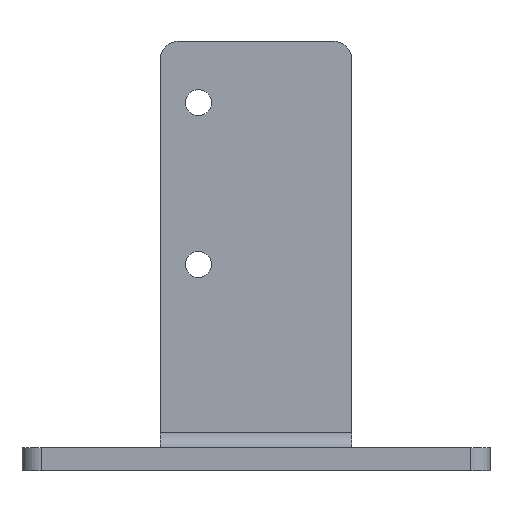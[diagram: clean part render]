
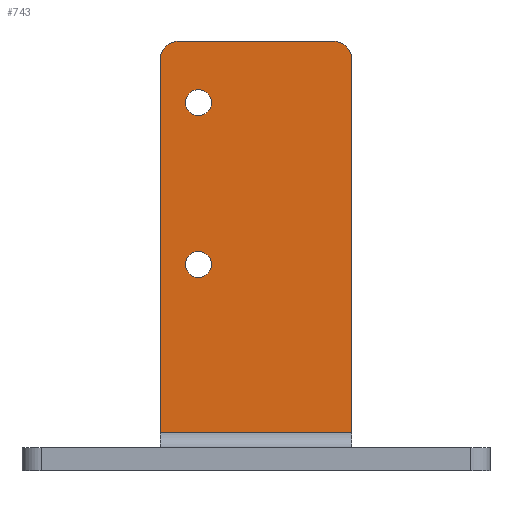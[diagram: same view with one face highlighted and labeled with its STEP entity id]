
A CAD part, top view. The second image highlights one B-rep face of the part: STEP entity #743.
In plain terms, the highlighted planar face has unit normal (0, 0, 1).
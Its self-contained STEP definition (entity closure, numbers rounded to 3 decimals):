
#25 = ORIENTED_EDGE ( 'NONE', *, *, #580, .F. ) ;
#42 = VERTEX_POINT ( 'NONE', #675 ) ;
#50 = VECTOR ( 'NONE', #690, 1000. ) ;
#54 = VERTEX_POINT ( 'NONE', #67 ) ;
#66 = EDGE_LOOP ( 'NONE', ( #367, #753 ) ) ;
#67 = CARTESIAN_POINT ( 'NONE',  ( 3.3, 48., 3. ) ) ;
#68 = VECTOR ( 'NONE', #299, 1000. ) ;
#72 = PLANE ( 'NONE',  #833 ) ;
#88 = CARTESIAN_POINT ( 'NONE',  ( 25., 5., 3. ) ) ;
#90 = ORIENTED_EDGE ( 'NONE', *, *, #563, .T. ) ;
#92 = FACE_BOUND ( 'NONE', #395, .T. ) ;
#98 = CARTESIAN_POINT ( 'NONE',  ( 22.5, 56., 3. ) ) ;
#123 = VERTEX_POINT ( 'NONE', #836 ) ;
#124 = DIRECTION ( 'NONE',  ( 0., 1., 0. ) ) ;
#128 = DIRECTION ( 'NONE',  ( -1., 0., 0. ) ) ;
#135 = CARTESIAN_POINT ( 'NONE',  ( 6.7, 48., 3. ) ) ;
#138 = DIRECTION ( 'NONE',  ( 1., 0., 0. ) ) ;
#141 = VERTEX_POINT ( 'NONE', #88 ) ;
#147 = DIRECTION ( 'NONE',  ( -1., 0., 0. ) ) ;
#149 = LINE ( 'NONE', #415, #685 ) ;
#151 = DIRECTION ( 'NONE',  ( 1., 0., 0. ) ) ;
#160 = VERTEX_POINT ( 'NONE', #98 ) ;
#223 = DIRECTION ( 'NONE',  ( 0., 0., -1. ) ) ;
#242 = FACE_OUTER_BOUND ( 'NONE', #431, .T. ) ;
#273 = VERTEX_POINT ( 'NONE', #135 ) ;
#276 = CARTESIAN_POINT ( 'NONE',  ( 0., 0., 3. ) ) ;
#288 = AXIS2_PLACEMENT_3D ( 'NONE', #354, #356, #557 ) ;
#299 = DIRECTION ( 'NONE',  ( -1., 0., 0. ) ) ;
#304 = CARTESIAN_POINT ( 'NONE',  ( 22.5, 53.5, 3. ) ) ;
#307 = DIRECTION ( 'NONE',  ( 0., 0., 1. ) ) ;
#332 = CARTESIAN_POINT ( 'NONE',  ( 0., 0., 3. ) ) ;
#348 = VERTEX_POINT ( 'NONE', #768 ) ;
#354 = CARTESIAN_POINT ( 'NONE',  ( 5., 48., 3. ) ) ;
#356 = DIRECTION ( 'NONE',  ( 0., 0., 1. ) ) ;
#360 = ORIENTED_EDGE ( 'NONE', *, *, #447, .T. ) ;
#367 = ORIENTED_EDGE ( 'NONE', *, *, #451, .F. ) ;
#370 = DIRECTION ( 'NONE',  ( 0., 0., 1. ) ) ;
#373 = CARTESIAN_POINT ( 'NONE',  ( 5., 26.9, 3. ) ) ;
#374 = VERTEX_POINT ( 'NONE', #668 ) ;
#377 = VERTEX_POINT ( 'NONE', #712 ) ;
#378 = AXIS2_PLACEMENT_3D ( 'NONE', #304, #307, #147 ) ;
#393 = ORIENTED_EDGE ( 'NONE', *, *, #929, .F. ) ;
#394 = LINE ( 'NONE', #332, #614 ) ;
#395 = EDGE_LOOP ( 'NONE', ( #25, #483 ) ) ;
#404 = EDGE_CURVE ( 'NONE', #123, #374, #542, .T. ) ;
#415 = CARTESIAN_POINT ( 'NONE',  ( 25., 0., 3. ) ) ;
#431 = EDGE_LOOP ( 'NONE', ( #360, #553, #571, #90, #655, #393 ) ) ;
#445 = DIRECTION ( 'NONE',  ( 0., 0., 1. ) ) ;
#447 = EDGE_CURVE ( 'NONE', #141, #748, #149, .T. ) ;
#451 = EDGE_CURVE ( 'NONE', #374, #123, #711, .T. ) ;
#483 = ORIENTED_EDGE ( 'NONE', *, *, #669, .F. ) ;
#500 = DIRECTION ( 'NONE',  ( 0., -1., 0. ) ) ;
#503 = EDGE_CURVE ( 'NONE', #160, #377, #852, .T. ) ;
#515 = EDGE_CURVE ( 'NONE', #42, #348, #394, .T. ) ;
#526 = EDGE_CURVE ( 'NONE', #748, #160, #824, .T. ) ;
#542 = CIRCLE ( 'NONE', #692, 1.7 ) ;
#551 = CARTESIAN_POINT ( 'NONE',  ( 25., 53.5, 3. ) ) ;
#553 = ORIENTED_EDGE ( 'NONE', *, *, #526, .T. ) ;
#557 = DIRECTION ( 'NONE',  ( 1., 0., 0. ) ) ;
#563 = EDGE_CURVE ( 'NONE', #377, #42, #604, .T. ) ;
#571 = ORIENTED_EDGE ( 'NONE', *, *, #503, .T. ) ;
#572 = CIRCLE ( 'NONE', #288, 1.7 ) ;
#580 = EDGE_CURVE ( 'NONE', #273, #54, #821, .T. ) ;
#583 = CARTESIAN_POINT ( 'NONE',  ( 0., 56., 3. ) ) ;
#601 = LINE ( 'NONE', #603, #50 ) ;
#603 = CARTESIAN_POINT ( 'NONE',  ( 25., 5., 3. ) ) ;
#604 = CIRCLE ( 'NONE', #826, 2.5 ) ;
#614 = VECTOR ( 'NONE', #500, 1000. ) ;
#644 = AXIS2_PLACEMENT_3D ( 'NONE', #373, #370, #740 ) ;
#655 = ORIENTED_EDGE ( 'NONE', *, *, #515, .T. ) ;
#668 = CARTESIAN_POINT ( 'NONE',  ( 6.7, 26.9, 3. ) ) ;
#669 = EDGE_CURVE ( 'NONE', #54, #273, #572, .T. ) ;
#675 = CARTESIAN_POINT ( 'NONE',  ( 0., 53.5, 3. ) ) ;
#685 = VECTOR ( 'NONE', #124, 1000. ) ;
#690 = DIRECTION ( 'NONE',  ( -1., 0., 0. ) ) ;
#692 = AXIS2_PLACEMENT_3D ( 'NONE', #707, #710, #151 ) ;
#707 = CARTESIAN_POINT ( 'NONE',  ( 5., 26.9, 3. ) ) ;
#710 = DIRECTION ( 'NONE',  ( 0., 0., 1. ) ) ;
#711 = CIRCLE ( 'NONE', #644, 1.7 ) ;
#712 = CARTESIAN_POINT ( 'NONE',  ( 2.5, 56., 3. ) ) ;
#723 = CARTESIAN_POINT ( 'NONE',  ( 5., 48., 3. ) ) ;
#730 = CARTESIAN_POINT ( 'NONE',  ( 2.5, 53.5, 3. ) ) ;
#740 = DIRECTION ( 'NONE',  ( 1., 0., 0. ) ) ;
#743 = ADVANCED_FACE ( 'NONE', ( #92, #764, #242 ), #72, .F. ) ;
#748 = VERTEX_POINT ( 'NONE', #551 ) ;
#753 = ORIENTED_EDGE ( 'NONE', *, *, #404, .F. ) ;
#764 = FACE_BOUND ( 'NONE', #66, .T. ) ;
#768 = CARTESIAN_POINT ( 'NONE',  ( 0., 5., 3. ) ) ;
#821 = CIRCLE ( 'NONE', #943, 1.7 ) ;
#824 = CIRCLE ( 'NONE', #378, 2.5 ) ;
#826 = AXIS2_PLACEMENT_3D ( 'NONE', #730, #445, #831 ) ;
#831 = DIRECTION ( 'NONE',  ( -1., 0., 0. ) ) ;
#833 = AXIS2_PLACEMENT_3D ( 'NONE', #276, #223, #128 ) ;
#836 = CARTESIAN_POINT ( 'NONE',  ( 3.3, 26.9, 3. ) ) ;
#852 = LINE ( 'NONE', #583, #68 ) ;
#929 = EDGE_CURVE ( 'NONE', #141, #348, #601, .T. ) ;
#943 = AXIS2_PLACEMENT_3D ( 'NONE', #723, #957, #138 ) ;
#957 = DIRECTION ( 'NONE',  ( 0., 0., 1. ) ) ;
